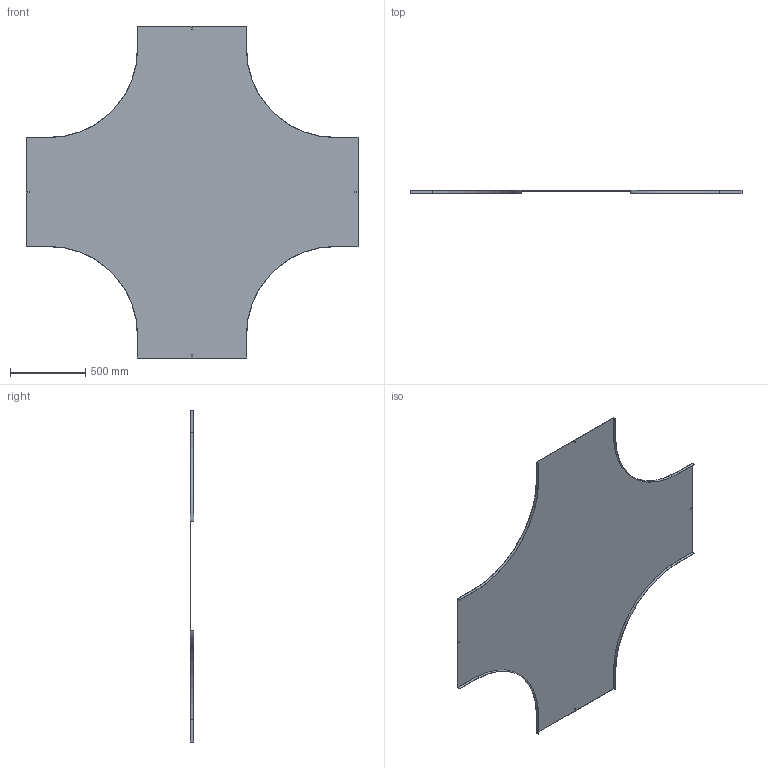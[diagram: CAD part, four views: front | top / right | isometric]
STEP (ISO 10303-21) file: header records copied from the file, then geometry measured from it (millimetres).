
FILE_DESCRIPTION (( 'STEP AP214' ), '1' );
FILE_NAME ('17N6P700.step', '2025-02-21T13:57:47', ( '' ), ( '' ), 'SwSTEP 2.0', 'SolidWorks 2023', '' );
FILE_SCHEMA (( 'AUTOMOTIVE_DESIGN' ));
Length unit declared in the file: millimetre
Products named in the file (1): 17N6P700
Bounding box: 2200 x 20 x 2200 mm (x, y, z)
Volume: 4569337.4 mm3; surface area: 6104542.4 mm2
Topology: 1 solids, 1 shells, 50 faces, 144 edges, 96 vertices
Faces by surface type: plane 42, cylinder 8
Entity records: 1663 total; most frequent: CARTESIAN_POINT 291, ORIENTED_EDGE 288, DIRECTION 262, EDGE_CURVE 144, VECTOR 128, LINE 128, VERTEX_POINT 96, AXIS2_PLACEMENT_3D 67
